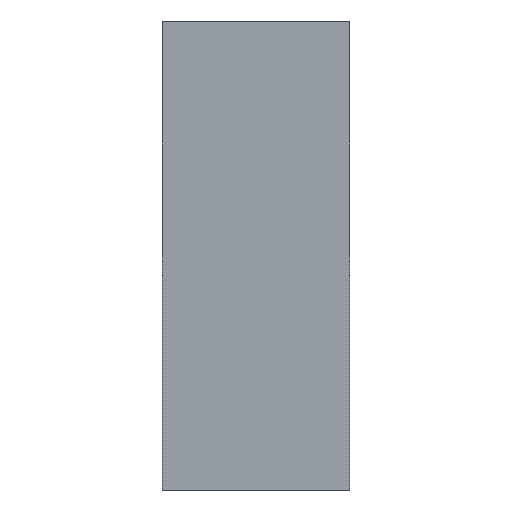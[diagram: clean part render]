
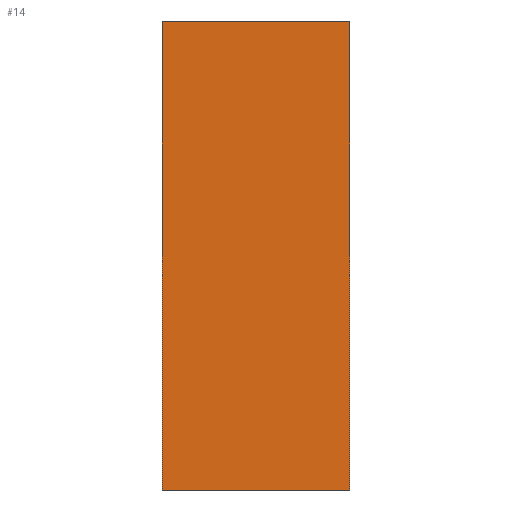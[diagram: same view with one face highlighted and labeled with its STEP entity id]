
A CAD part, front view. The second image highlights one B-rep face of the part: STEP entity #14.
In plain terms, the highlighted planar face has unit normal (0, -1, 0).
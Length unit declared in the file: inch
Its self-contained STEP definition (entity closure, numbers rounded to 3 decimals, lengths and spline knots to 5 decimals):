
#14=ADVANCED_FACE('',(#20),#88,.T.);
#20=FACE_OUTER_BOUND('',#26,.T.);
#26=EDGE_LOOP('',(#32,#33,#34,#35));
#32=ORIENTED_EDGE('',*,*,#56,.T.);
#33=ORIENTED_EDGE('',*,*,#65,.T.);
#34=ORIENTED_EDGE('',*,*,#60,.F.);
#35=ORIENTED_EDGE('',*,*,#64,.F.);
#56=EDGE_CURVE('',#80,#81,#68,.T.);
#60=EDGE_CURVE('',#84,#85,#72,.T.);
#64=EDGE_CURVE('',#80,#84,#76,.T.);
#65=EDGE_CURVE('',#81,#85,#77,.T.);
#68=B_SPLINE_CURVE_WITH_KNOTS('',1,(#217,#218),.UNSPECIFIED.,.F.,.F.,(2,
2),(0.,4.),.UNSPECIFIED.);
#72=B_SPLINE_CURVE_WITH_KNOTS('',1,(#225,#226),.UNSPECIFIED.,.F.,.F.,(2,
2),(0.,4.),.UNSPECIFIED.);
#76=B_SPLINE_CURVE_WITH_KNOTS('',1,(#233,#234),.UNSPECIFIED.,.F.,.F.,(2,
2),(0.,10.),.UNSPECIFIED.);
#77=B_SPLINE_CURVE_WITH_KNOTS('',1,(#235,#236),.UNSPECIFIED.,.F.,.F.,(2,
2),(0.,10.),.UNSPECIFIED.);
#80=VERTEX_POINT('',#209);
#81=VERTEX_POINT('',#210);
#84=VERTEX_POINT('',#213);
#85=VERTEX_POINT('',#214);
#88=PLANE('',#185);
#185=AXIS2_PLACEMENT_3D('',#203,#194,$);
#194=DIRECTION('',(0.,-1.,0.));
#203=CARTESIAN_POINT('',(0.,0.,0.));
#209=CARTESIAN_POINT('',(0.,0.,0.));
#210=CARTESIAN_POINT('',(4.,0.,0.));
#213=CARTESIAN_POINT('',(0.,0.,10.));
#214=CARTESIAN_POINT('',(4.,0.,10.));
#217=CARTESIAN_POINT('',(0.,0.,0.));
#218=CARTESIAN_POINT('',(4.,0.,0.));
#225=CARTESIAN_POINT('',(0.,0.,10.));
#226=CARTESIAN_POINT('',(4.,0.,10.));
#233=CARTESIAN_POINT('',(0.,0.,0.));
#234=CARTESIAN_POINT('',(0.,0.,10.));
#235=CARTESIAN_POINT('',(4.,0.,0.));
#236=CARTESIAN_POINT('',(4.,0.,10.));
